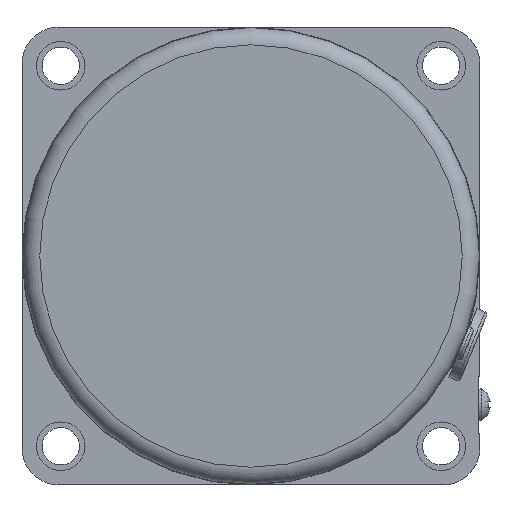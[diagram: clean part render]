
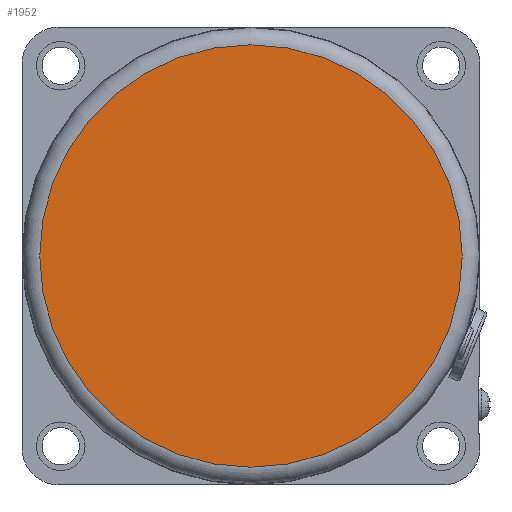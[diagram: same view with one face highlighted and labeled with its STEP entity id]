
A CAD part, left-side view. The second image highlights one B-rep face of the part: STEP entity #1952.
In plain terms, the highlighted planar face has unit normal (-1, 0, 0).
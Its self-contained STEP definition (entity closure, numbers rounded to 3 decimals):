
#427=FACE_OUTER_BOUND('',#563,.T.);
#563=EDGE_LOOP('',(#1269));
#721=CIRCLE('',#2090,36.9);
#816=VERTEX_POINT('',#2917);
#1000=EDGE_CURVE('',#816,#816,#721,.T.);
#1269=ORIENTED_EDGE('',*,*,#1000,.F.);
#1749=PLANE('',#2092);
#1952=ADVANCED_FACE('',(#427),#1749,.T.);
#2090=AXIS2_PLACEMENT_3D('',#2918,#2335,#2336);
#2092=AXIS2_PLACEMENT_3D('',#2920,#2339,#2340);
#2335=DIRECTION('center_axis',(1.,0.,0.));
#2336=DIRECTION('ref_axis',(0.,0.,1.));
#2339=DIRECTION('center_axis',(-1.,0.,0.));
#2340=DIRECTION('ref_axis',(0.,0.,1.));
#2917=CARTESIAN_POINT('',(-38.5,0.,-36.9));
#2918=CARTESIAN_POINT('Origin',(-38.5,0.,
0.));
#2920=CARTESIAN_POINT('Origin',(-38.5,0.,
0.));
